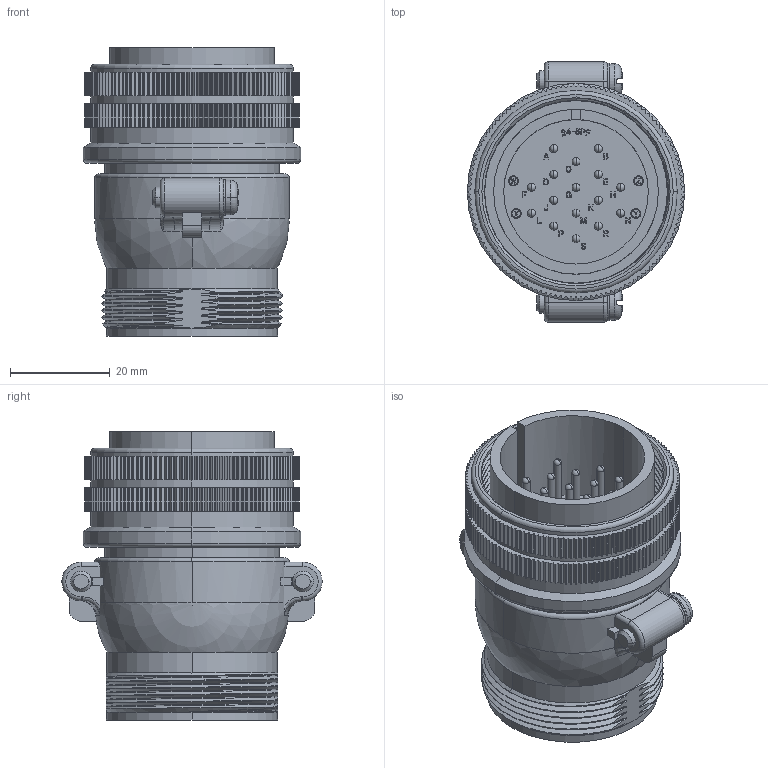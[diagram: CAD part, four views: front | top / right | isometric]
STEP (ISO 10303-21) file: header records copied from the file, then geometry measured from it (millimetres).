
FILE_DESCRIPTION (( 'STEP AP203' ), '1' );
FILE_NAME ('DMS3106B24-5P.STEP', '2018-09-11T00:21:28', ( '' ), ( '' ), 'SwSTEP 2.0', 'SolidWorks 2018', '' );
FILE_SCHEMA (( 'CONFIG_CONTROL_DESIGN' ));
Products named in the file (1): DMS3106B24-5P
Bounding box: 43.58 x 52.19 x 57.77 mm (x, y, z)
Volume: 32631.6 mm3; surface area: 26015.8 mm2
Topology: 1 solids, 1 shells, 3355 faces, 9584 edges, 6306 vertices
Faces by surface type: cylinder 1532, plane 1362, bspline 348, cone 55, sphere 40, torus 18
Entity records: 128934 total; most frequent: CARTESIAN_POINT 41613, ORIENTED_EDGE 19028, DIRECTION 17733, EDGE_CURVE 9514, VERTEX_POINT 6302, AXIS2_PLACEMENT_3D 6132, LINE 5469, VECTOR 5469
